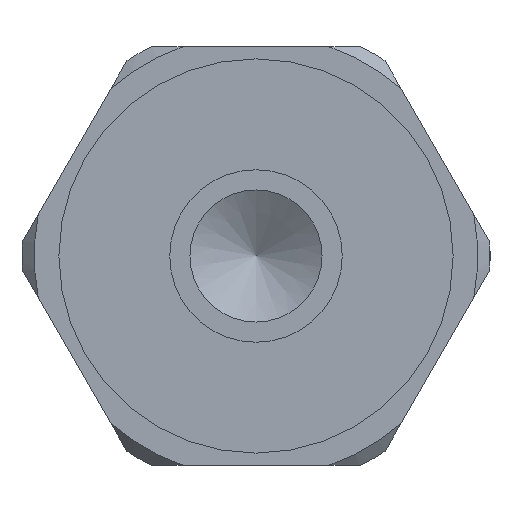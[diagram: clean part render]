
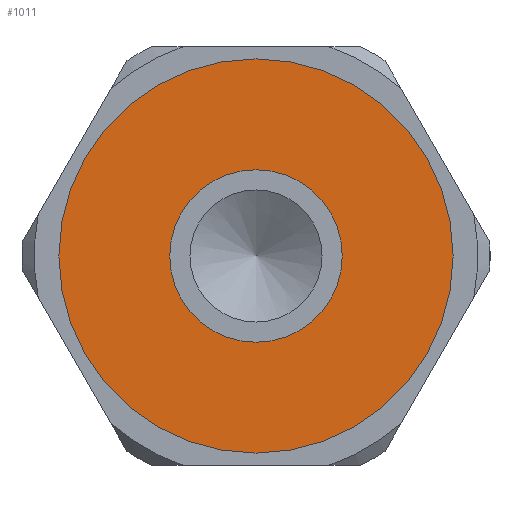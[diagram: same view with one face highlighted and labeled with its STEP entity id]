
A CAD part, left-side view. The second image highlights one B-rep face of the part: STEP entity #1011.
In plain terms, the highlighted planar face has unit normal (-1, 0, 0).
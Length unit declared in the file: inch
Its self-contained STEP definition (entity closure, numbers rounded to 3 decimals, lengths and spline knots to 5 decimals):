
#60=FACE_BOUND('',#195,.T.);
#81=PLANE('',#1155);
#134=FACE_OUTER_BOUND('',#194,.T.);
#194=EDGE_LOOP('',(#865,#866));
#195=EDGE_LOOP('',(#867,#868));
#319=CIRCLE('',#1083,0.1378);
#320=CIRCLE('',#1084,0.1378);
#355=CIRCLE('',#1153,0.31496);
#356=CIRCLE('',#1154,0.31496);
#393=VERTEX_POINT('',#1555);
#394=VERTEX_POINT('',#1556);
#453=VERTEX_POINT('',#1790);
#454=VERTEX_POINT('',#1791);
#499=EDGE_CURVE('',#393,#394,#319,.T.);
#500=EDGE_CURVE('',#394,#393,#320,.T.);
#592=EDGE_CURVE('',#453,#454,#355,.T.);
#593=EDGE_CURVE('',#454,#453,#356,.T.);
#865=ORIENTED_EDGE('',*,*,#592,.T.);
#866=ORIENTED_EDGE('',*,*,#593,.T.);
#867=ORIENTED_EDGE('',*,*,#499,.T.);
#868=ORIENTED_EDGE('',*,*,#500,.T.);
#1011=ADVANCED_FACE('',(#134,#60),#81,.T.);
#1083=AXIS2_PLACEMENT_3D('',#1557,#1268,#1269);
#1084=AXIS2_PLACEMENT_3D('',#1558,#1270,#1271);
#1153=AXIS2_PLACEMENT_3D('',#1792,#1441,#1442);
#1154=AXIS2_PLACEMENT_3D('',#1793,#1443,#1444);
#1155=AXIS2_PLACEMENT_3D('',#1795,#1446,#1447);
#1268=DIRECTION('center_axis',(1.,0.,0.));
#1269=DIRECTION('ref_axis',(0.,0.,1.));
#1270=DIRECTION('center_axis',(1.,0.,0.));
#1271=DIRECTION('ref_axis',(0.,0.,1.));
#1441=DIRECTION('center_axis',(-1.,0.,0.));
#1442=DIRECTION('ref_axis',(0.,0.,1.));
#1443=DIRECTION('center_axis',(-1.,0.,0.));
#1444=DIRECTION('ref_axis',(0.,0.,1.));
#1446=DIRECTION('center_axis',(-1.,0.,0.));
#1447=DIRECTION('ref_axis',(0.,0.,1.));
#1555=CARTESIAN_POINT('',(-2.21862,-0.42833,0.56421));
#1556=CARTESIAN_POINT('',(-2.21862,-0.42833,0.28862));
#1557=CARTESIAN_POINT('Origin',(-2.21862,-0.42833,0.42641));
#1558=CARTESIAN_POINT('Origin',(-2.21862,-0.42833,0.42641));
#1790=CARTESIAN_POINT('',(-2.21862,-0.42833,0.74137));
#1791=CARTESIAN_POINT('',(-2.21862,-0.42833,0.11145));
#1792=CARTESIAN_POINT('Origin',(-2.21862,-0.42833,0.42641));
#1793=CARTESIAN_POINT('Origin',(-2.21862,-0.42833,0.42641));
#1795=CARTESIAN_POINT('Origin',(-2.21862,-0.42833,0.42641));
